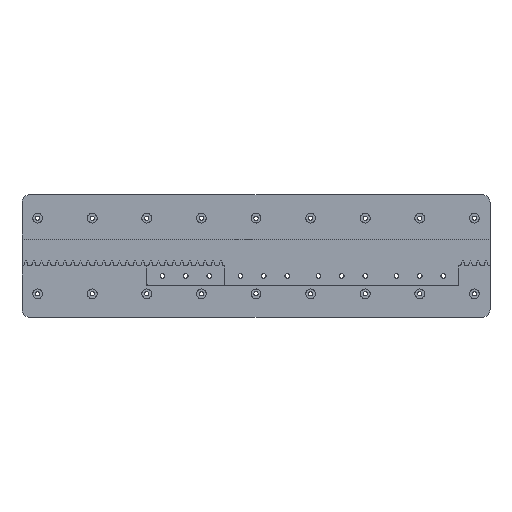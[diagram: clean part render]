
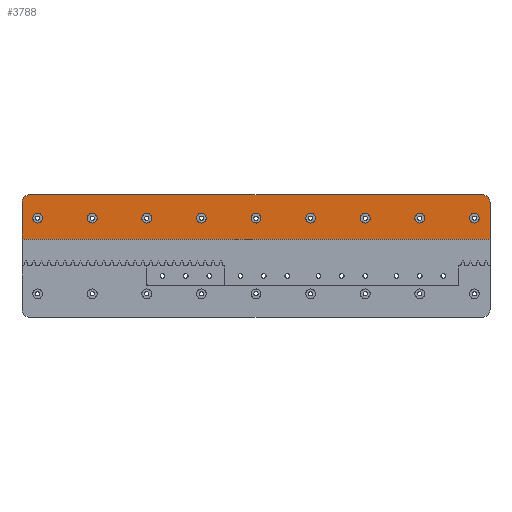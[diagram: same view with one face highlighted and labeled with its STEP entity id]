
A CAD part, top view. The second image highlights one B-rep face of the part: STEP entity #3788.
In plain terms, the highlighted planar face has unit normal (0, 0, 1).
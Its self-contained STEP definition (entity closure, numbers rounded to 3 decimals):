
#148=FACE_BOUND('',#806,.T.);
#149=FACE_BOUND('',#807,.T.);
#150=FACE_BOUND('',#808,.T.);
#151=FACE_BOUND('',#809,.T.);
#152=FACE_BOUND('',#810,.T.);
#153=FACE_BOUND('',#811,.T.);
#154=FACE_BOUND('',#812,.T.);
#155=FACE_BOUND('',#813,.T.);
#156=FACE_BOUND('',#814,.T.);
#472=PLANE('',#4159);
#563=FACE_OUTER_BOUND('',#805,.T.);
#805=EDGE_LOOP('',(#2856,#2857,#2858,#2859,#2860,#2861));
#806=EDGE_LOOP('',(#2862));
#807=EDGE_LOOP('',(#2863));
#808=EDGE_LOOP('',(#2864));
#809=EDGE_LOOP('',(#2865));
#810=EDGE_LOOP('',(#2866));
#811=EDGE_LOOP('',(#2867));
#812=EDGE_LOOP('',(#2868));
#813=EDGE_LOOP('',(#2869));
#814=EDGE_LOOP('',(#2870));
#1024=LINE('',#5922,#1183);
#1035=LINE('',#6006,#1194);
#1040=LINE('',#6016,#1199);
#1042=LINE('',#6025,#1201);
#1183=VECTOR('',#4445,10.);
#1194=VECTOR('',#4472,10.);
#1199=VECTOR('',#4483,10.);
#1201=VECTOR('',#4493,10.);
#1374=CIRCLE('',#4036,10.);
#1376=CIRCLE('',#4040,10.);
#1378=CIRCLE('',#4043,6.25);
#1385=CIRCLE('',#4056,6.25);
#1392=CIRCLE('',#4069,6.25);
#1399=CIRCLE('',#4082,6.25);
#1406=CIRCLE('',#4095,6.25);
#1413=CIRCLE('',#4108,6.25);
#1420=CIRCLE('',#4121,6.25);
#1427=CIRCLE('',#4134,6.25);
#1434=CIRCLE('',#4147,6.25);
#1623=VERTEX_POINT('',#5919);
#1624=VERTEX_POINT('',#5921);
#1633=VERTEX_POINT('',#6003);
#1634=VERTEX_POINT('',#6005);
#1637=VERTEX_POINT('',#6018);
#1639=VERTEX_POINT('',#6024);
#1641=VERTEX_POINT('',#6033);
#1648=VERTEX_POINT('',#6057);
#1655=VERTEX_POINT('',#6081);
#1662=VERTEX_POINT('',#6105);
#1669=VERTEX_POINT('',#6129);
#1676=VERTEX_POINT('',#6153);
#1683=VERTEX_POINT('',#6177);
#1690=VERTEX_POINT('',#6201);
#1697=VERTEX_POINT('',#6225);
#2026=EDGE_CURVE('',#1624,#1623,#1024,.T.);
#2042=EDGE_CURVE('',#1634,#1633,#1035,.T.);
#2048=EDGE_CURVE('',#1633,#1624,#1040,.T.);
#2049=EDGE_CURVE('',#1623,#1637,#1374,.T.);
#2052=EDGE_CURVE('',#1637,#1639,#1042,.T.);
#2055=EDGE_CURVE('',#1639,#1634,#1376,.T.);
#2057=EDGE_CURVE('',#1641,#1641,#1378,.T.);
#2068=EDGE_CURVE('',#1648,#1648,#1385,.T.);
#2079=EDGE_CURVE('',#1655,#1655,#1392,.T.);
#2090=EDGE_CURVE('',#1662,#1662,#1399,.T.);
#2101=EDGE_CURVE('',#1669,#1669,#1406,.T.);
#2112=EDGE_CURVE('',#1676,#1676,#1413,.T.);
#2123=EDGE_CURVE('',#1683,#1683,#1420,.T.);
#2134=EDGE_CURVE('',#1690,#1690,#1427,.T.);
#2145=EDGE_CURVE('',#1697,#1697,#1434,.T.);
#2856=ORIENTED_EDGE('',*,*,#2026,.T.);
#2857=ORIENTED_EDGE('',*,*,#2049,.T.);
#2858=ORIENTED_EDGE('',*,*,#2052,.T.);
#2859=ORIENTED_EDGE('',*,*,#2055,.T.);
#2860=ORIENTED_EDGE('',*,*,#2042,.T.);
#2861=ORIENTED_EDGE('',*,*,#2048,.T.);
#2862=ORIENTED_EDGE('',*,*,#2057,.T.);
#2863=ORIENTED_EDGE('',*,*,#2068,.T.);
#2864=ORIENTED_EDGE('',*,*,#2079,.T.);
#2865=ORIENTED_EDGE('',*,*,#2090,.T.);
#2866=ORIENTED_EDGE('',*,*,#2101,.T.);
#2867=ORIENTED_EDGE('',*,*,#2112,.T.);
#2868=ORIENTED_EDGE('',*,*,#2123,.T.);
#2869=ORIENTED_EDGE('',*,*,#2134,.T.);
#2870=ORIENTED_EDGE('',*,*,#2145,.T.);
#3788=ADVANCED_FACE('',(#563,#148,#149,#150,#151,#152,#153,#154,#155,#156),
#472,.T.);
#4036=AXIS2_PLACEMENT_3D('',#6019,#4486,#4487);
#4040=AXIS2_PLACEMENT_3D('',#6030,#4498,#4499);
#4043=AXIS2_PLACEMENT_3D('',#6034,#4504,#4505);
#4056=AXIS2_PLACEMENT_3D('',#6058,#4534,#4535);
#4069=AXIS2_PLACEMENT_3D('',#6082,#4564,#4565);
#4082=AXIS2_PLACEMENT_3D('',#6106,#4594,#4595);
#4095=AXIS2_PLACEMENT_3D('',#6130,#4624,#4625);
#4108=AXIS2_PLACEMENT_3D('',#6154,#4654,#4655);
#4121=AXIS2_PLACEMENT_3D('',#6178,#4684,#4685);
#4134=AXIS2_PLACEMENT_3D('',#6202,#4714,#4715);
#4147=AXIS2_PLACEMENT_3D('',#6226,#4744,#4745);
#4159=AXIS2_PLACEMENT_3D('',#6248,#4772,#4773);
#4445=DIRECTION('',(0.,1.,0.));
#4472=DIRECTION('',(0.,-1.,0.));
#4483=DIRECTION('',(1.,0.,0.));
#4486=DIRECTION('center_axis',(0.,0.,1.));
#4487=DIRECTION('ref_axis',(0.707,0.707,0.));
#4493=DIRECTION('',(-1.,0.,0.));
#4498=DIRECTION('center_axis',(0.,0.,1.));
#4499=DIRECTION('ref_axis',(-0.707,0.707,0.));
#4504=DIRECTION('center_axis',(0.,0.,-1.));
#4505=DIRECTION('ref_axis',(1.,0.,0.));
#4534=DIRECTION('center_axis',(0.,0.,-1.));
#4535=DIRECTION('ref_axis',(1.,0.,0.));
#4564=DIRECTION('center_axis',(0.,0.,-1.));
#4565=DIRECTION('ref_axis',(1.,0.,0.));
#4594=DIRECTION('center_axis',(0.,0.,-1.));
#4595=DIRECTION('ref_axis',(1.,0.,0.));
#4624=DIRECTION('center_axis',(0.,0.,-1.));
#4625=DIRECTION('ref_axis',(1.,0.,0.));
#4654=DIRECTION('center_axis',(0.,0.,-1.));
#4655=DIRECTION('ref_axis',(1.,0.,0.));
#4684=DIRECTION('center_axis',(0.,0.,-1.));
#4685=DIRECTION('ref_axis',(1.,0.,0.));
#4714=DIRECTION('center_axis',(0.,0.,-1.));
#4715=DIRECTION('ref_axis',(1.,0.,0.));
#4744=DIRECTION('center_axis',(0.,0.,-1.));
#4745=DIRECTION('ref_axis',(1.,0.,0.));
#4772=DIRECTION('center_axis',(0.,0.,1.));
#4773=DIRECTION('ref_axis',(0.,-1.,0.));
#5919=CARTESIAN_POINT('',(600.,78.049,0.));
#5921=CARTESIAN_POINT('',(600.,31.249,0.));
#5922=CARTESIAN_POINT('',(600.,48.799,0.));
#6003=CARTESIAN_POINT('',(0.,31.249,0.));
#6005=CARTESIAN_POINT('',(0.,78.049,0.));
#6006=CARTESIAN_POINT('',(0.,48.799,0.));
#6016=CARTESIAN_POINT('',(0.,31.249,0.));
#6018=CARTESIAN_POINT('',(590.,88.049,0.));
#6019=CARTESIAN_POINT('Origin',(590.,78.049,0.));
#6024=CARTESIAN_POINT('',(10.,88.049,0.));
#6025=CARTESIAN_POINT('',(0.,88.049,0.));
#6030=CARTESIAN_POINT('Origin',(10.,78.049,0.));
#6033=CARTESIAN_POINT('',(573.75,58.049,0.));
#6034=CARTESIAN_POINT('Origin',(580.,58.049,0.));
#6057=CARTESIAN_POINT('',(503.75,58.049,0.));
#6058=CARTESIAN_POINT('Origin',(510.,58.049,0.));
#6081=CARTESIAN_POINT('',(433.75,58.049,0.));
#6082=CARTESIAN_POINT('Origin',(440.,58.049,0.));
#6105=CARTESIAN_POINT('',(363.75,58.049,0.));
#6106=CARTESIAN_POINT('Origin',(370.,58.049,0.));
#6129=CARTESIAN_POINT('',(293.75,58.049,0.));
#6130=CARTESIAN_POINT('Origin',(300.,58.049,0.));
#6153=CARTESIAN_POINT('',(223.75,58.049,0.));
#6154=CARTESIAN_POINT('Origin',(230.,58.049,0.));
#6177=CARTESIAN_POINT('',(153.75,58.049,0.));
#6178=CARTESIAN_POINT('Origin',(160.,58.049,0.));
#6201=CARTESIAN_POINT('',(83.75,58.049,0.));
#6202=CARTESIAN_POINT('Origin',(90.,58.049,0.));
#6225=CARTESIAN_POINT('',(13.75,58.049,0.));
#6226=CARTESIAN_POINT('Origin',(20.,58.049,0.));
#6248=CARTESIAN_POINT('Origin',(0.,88.049,0.));
